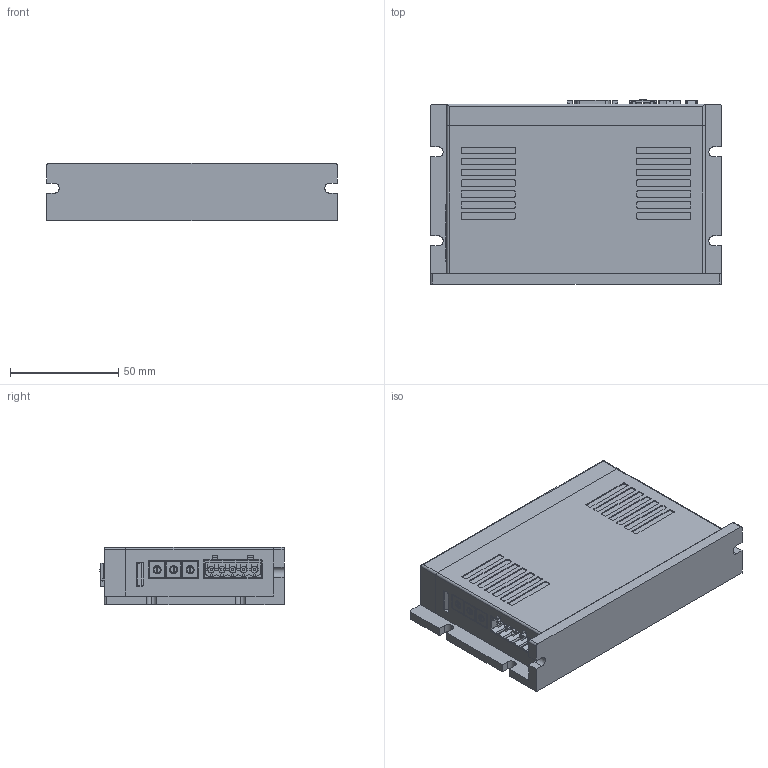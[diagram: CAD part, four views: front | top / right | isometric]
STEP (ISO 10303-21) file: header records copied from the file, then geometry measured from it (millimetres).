
FILE_DESCRIPTION (( 'STEP AP203' ), '1' );
FILE_NAME ('P1Z-DR-000-01-R00.STEP', '2017-04-26T02:18:57', ( '' ), ( '' ), 'SwSTEP 2.0', 'SolidWorks 2013', '' );
FILE_SCHEMA (( 'CONFIG_CONTROL_DESIGN' ));
Length unit declared in the file: millimetre
Products named in the file (23): P1Z-DR-000-01-R00; MARUWA YD-02A; Part1_2; 9; Part1_3; _X2_D30CD2B8_X0_96; 1; M1A-DR-000-01-R00; _X2_D30CD2B8_X0_94; 2; M1Z-DR-000-01-R00; 12; MSBR; M1Z-DR-000-02-R00; 5EHDRRC-05P; 3; Ezi_SERVO_2 PR PCB; だ塭嘐攪 撲薑 鐘喀攪; AC ﾀﾔﾃ箙ﾂ ﾁ｢ｼﾓ ﾄｿｳﾘﾅﾍ; Ezi_SERVO_2 ST PCB; countersunk flat cross head screw_ks_KS 1023 FC- M2.6 x 14-N; 5; Part1
Assembly tree (28 placements, depth 3):
  P1Z-DR-000-01-R00
    M1A-DR-000-01-R00
    M1Z-DR-000-01-R00
    M1Z-DR-000-02-R00
    Ezi_SERVO_2 PR PCB
    Ezi_SERVO_2 ST PCB
    1
      Part1
      Part1_2
      Part1_3
    2
    3
      MSBR
    AC ﾀﾔﾃ箙ﾂ ﾁ｢ｼﾓ ﾄｿｳﾘﾅﾍ
    5  x2
    MARUWA YD-02A
    9
    12  x3
      _X2_D30CD2B8_X0_96
      _X2_D30CD2B8_X0_94
    5EHDRRC-05P
    だ塭嘐攪 撲薑 鐘喀攪
    countersunk flat cross head screw_ks_KS 1023 FC- M2.6 x 14-N  x4
Bounding box: 134 x 85 x 26.5 mm (x, y, z)
Volume: 109925 mm3; surface area: 101143.5 mm2
Topology: 28 solids, 29 shells, 2430 faces, 6427 edges, 4182 vertices
Faces by surface type: plane 1783, cylinder 553, cone 58, bspline 26, torus 10
Full cylindrical faces by diameter (mm): 0.7 x1
Entity records: 72716 total; most frequent: CARTESIAN_POINT 13270, ORIENTED_EDGE 11935, DIRECTION 11491, EDGE_CURVE 5984, LINE 4805, VECTOR 4805, VERTEX_POINT 3922, AXIS2_PLACEMENT_3D 3343
